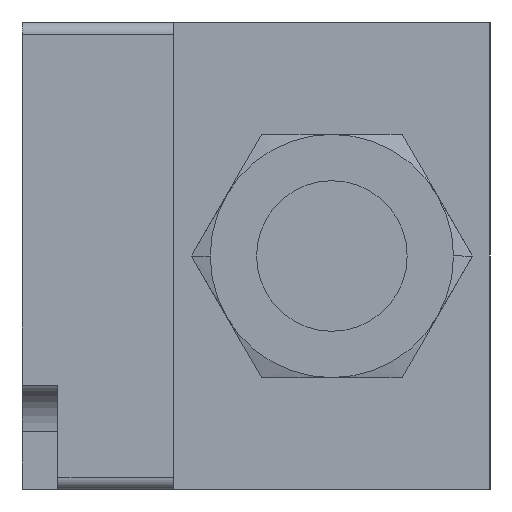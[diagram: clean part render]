
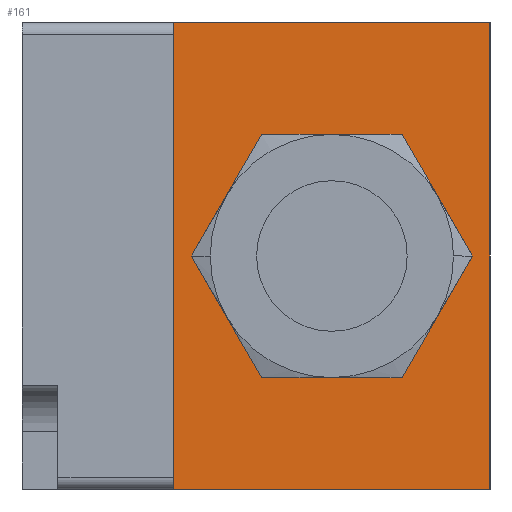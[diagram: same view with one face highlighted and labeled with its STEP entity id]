
A CAD part, left-side view. The second image highlights one B-rep face of the part: STEP entity #161.
In plain terms, the highlighted planar face has unit normal (-1, 0, 0).
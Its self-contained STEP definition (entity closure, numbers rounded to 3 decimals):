
#161 = ADVANCED_FACE( '', ( #348, #349 ), #350, .T. );
#348 = FACE_BOUND( '', #543, .T. );
#349 = FACE_OUTER_BOUND( '', #544, .T. );
#350 = PLANE( '', #545 );
#543 = EDGE_LOOP( '', ( #1244, #1245 ) );
#544 = EDGE_LOOP( '', ( #1246, #1247, #1248, #1249 ) );
#545 = AXIS2_PLACEMENT_3D( '', #1250, #1251, #1252 );
#1244 = ORIENTED_EDGE( '', *, *, #1347, .T. );
#1245 = ORIENTED_EDGE( '', *, *, #1309, .T. );
#1246 = ORIENTED_EDGE( '', *, *, #1504, .T. );
#1247 = ORIENTED_EDGE( '', *, *, #1466, .F. );
#1248 = ORIENTED_EDGE( '', *, *, #1473, .F. );
#1249 = ORIENTED_EDGE( '', *, *, #1463, .T. );
#1250 = CARTESIAN_POINT( '', ( 7., 13.65, -20.15 ) );
#1251 = DIRECTION( '', ( -1., 0., 0. ) );
#1252 = DIRECTION( '', ( 0., 0., -1. ) );
#1309 = EDGE_CURVE( '', #1572, #1569, #1573, .T. );
#1347 = EDGE_CURVE( '', #1569, #1572, #1632, .T. );
#1463 = EDGE_CURVE( '', #1822, #1820, #1823, .T. );
#1466 = EDGE_CURVE( '', #1825, #1827, #1828, .T. );
#1473 = EDGE_CURVE( '', #1822, #1825, #1836, .T. );
#1504 = EDGE_CURVE( '', #1820, #1827, #1883, .T. );
#1569 = VERTEX_POINT( '', #1964 );
#1572 = VERTEX_POINT( '', #1968 );
#1573 = CIRCLE( '', #1969, 10. );
#1632 = CIRCLE( '', #2151, 10. );
#1820 = VERTEX_POINT( '', #2418 );
#1822 = VERTEX_POINT( '', #2421 );
#1823 = LINE( '', #2422, #2423 );
#1825 = VERTEX_POINT( '', #2426 );
#1827 = VERTEX_POINT( '', #2429 );
#1828 = LINE( '', #2430, #2431 );
#1836 = LINE( '', #2442, #2443 );
#1883 = LINE( '', #2507, #2508 );
#1964 = CARTESIAN_POINT( '', ( 7., 10., 0. ) );
#1968 = CARTESIAN_POINT( '', ( 7., -10., 0. ) );
#1969 = AXIS2_PLACEMENT_3D( '', #2574, #2575, #2576 );
#2151 = AXIS2_PLACEMENT_3D( '', #2622, #2623, #2624 );
#2418 = CARTESIAN_POINT( '', ( 7., -13.65, -20.15 ) );
#2421 = CARTESIAN_POINT( '', ( 7., 13.65, -20.15 ) );
#2422 = CARTESIAN_POINT( '', ( 7., 13.65, -20.15 ) );
#2423 = VECTOR( '', #2810, 1. );
#2426 = CARTESIAN_POINT( '', ( 7., 13.65, 20.15 ) );
#2429 = CARTESIAN_POINT( '', ( 7., -13.65, 20.15 ) );
#2430 = CARTESIAN_POINT( '', ( 7., 13.65, 20.15 ) );
#2431 = VECTOR( '', #2813, 1. );
#2442 = CARTESIAN_POINT( '', ( 7., 13.65, -20.15 ) );
#2443 = VECTOR( '', #2826, 1. );
#2507 = CARTESIAN_POINT( '', ( 7., -13.65, -20.15 ) );
#2508 = VECTOR( '', #2883, 1. );
#2574 = CARTESIAN_POINT( '', ( 7., 0., 0. ) );
#2575 = DIRECTION( '', ( 1., 0., 0. ) );
#2576 = DIRECTION( '', ( 0., 1., 0. ) );
#2622 = CARTESIAN_POINT( '', ( 7., 0., 0. ) );
#2623 = DIRECTION( '', ( 1., 0., 0. ) );
#2624 = DIRECTION( '', ( 0., 1., 0. ) );
#2810 = DIRECTION( '', ( 0., -1., 0. ) );
#2813 = DIRECTION( '', ( 0., -1., 0. ) );
#2826 = DIRECTION( '', ( 0., 0., 1. ) );
#2883 = DIRECTION( '', ( 0., 0., 1. ) );
